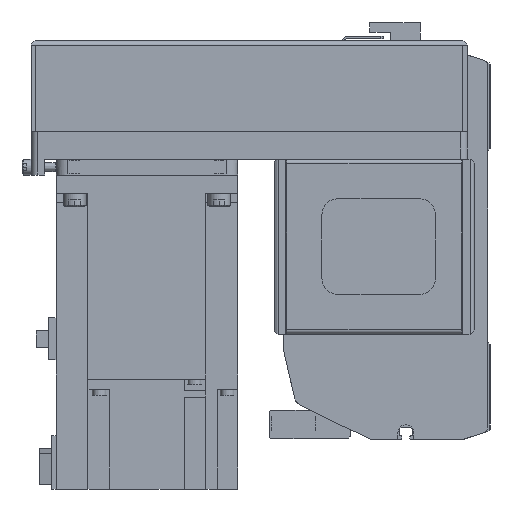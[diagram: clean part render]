
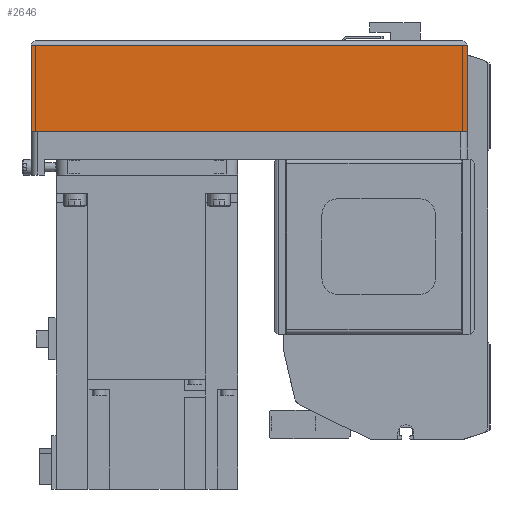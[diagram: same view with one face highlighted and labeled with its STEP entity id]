
A CAD part, left-side view. The second image highlights one B-rep face of the part: STEP entity #2646.
In plain terms, the highlighted planar face has unit normal (-1, 0, 0) as drawn and (0, 1, 0) by its records, which use the part's own axes.
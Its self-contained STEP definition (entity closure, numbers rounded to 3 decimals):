
#2646 = ADVANCED_FACE( '', ( #5739 ), #5740, .T. );
#5739 = FACE_OUTER_BOUND( '', #9233, .T. );
#5740 = PLANE( '', #9234 );
#9233 = EDGE_LOOP( '', ( #16743, #16744, #16745, #16746 ) );
#9234 = AXIS2_PLACEMENT_3D( '', #16747, #16748, #16749 );
#16743 = ORIENTED_EDGE( '', *, *, #22765, .F. );
#16744 = ORIENTED_EDGE( '', *, *, #22766, .F. );
#16745 = ORIENTED_EDGE( '', *, *, #21878, .T. );
#16746 = ORIENTED_EDGE( '', *, *, #20482, .T. );
#16747 = CARTESIAN_POINT( '', ( -192., 40., -50. ) );
#16748 = DIRECTION( '', ( 0., 1., 0. ) );
#16749 = DIRECTION( '', ( 0., 0., 1. ) );
#20482 = EDGE_CURVE( '', #24686, #24684, #24687, .T. );
#21878 = EDGE_CURVE( '', #26895, #24686, #26899, .T. );
#22765 = EDGE_CURVE( '', #25186, #24684, #28098, .T. );
#22766 = EDGE_CURVE( '', #26895, #25186, #28099, .T. );
#24684 = VERTEX_POINT( '', #30600 );
#24686 = VERTEX_POINT( '', #30603 );
#24687 = LINE( '', #30604, #30605 );
#25186 = VERTEX_POINT( '', #31337 );
#26895 = VERTEX_POINT( '', #34018 );
#26899 = LINE( '', #34025, #34026 );
#28098 = LINE( '', #35892, #35893 );
#28099 = LINE( '', #35894, #35895 );
#30600 = CARTESIAN_POINT( '', ( 0., 40., -12.1 ) );
#30603 = CARTESIAN_POINT( '', ( -192., 40., -12.1 ) );
#30604 = CARTESIAN_POINT( '', ( -192., 40., -12.1 ) );
#30605 = VECTOR( '', #37981, 1000. );
#31337 = CARTESIAN_POINT( '', ( 0., 40., -50. ) );
#34018 = CARTESIAN_POINT( '', ( -192., 40., -50. ) );
#34025 = CARTESIAN_POINT( '', ( -192., 40., -50. ) );
#34026 = VECTOR( '', #39758, 1000. );
#35892 = CARTESIAN_POINT( '', ( 0., 40., -50. ) );
#35893 = VECTOR( '', #40724, 1000. );
#35894 = CARTESIAN_POINT( '', ( -192., 40., -50. ) );
#35895 = VECTOR( '', #40725, 1000. );
#37981 = DIRECTION( '', ( 1., 0., 0. ) );
#39758 = DIRECTION( '', ( 0., 0., 1. ) );
#40724 = DIRECTION( '', ( 0., 0., 1. ) );
#40725 = DIRECTION( '', ( 1., 0., 0. ) );
